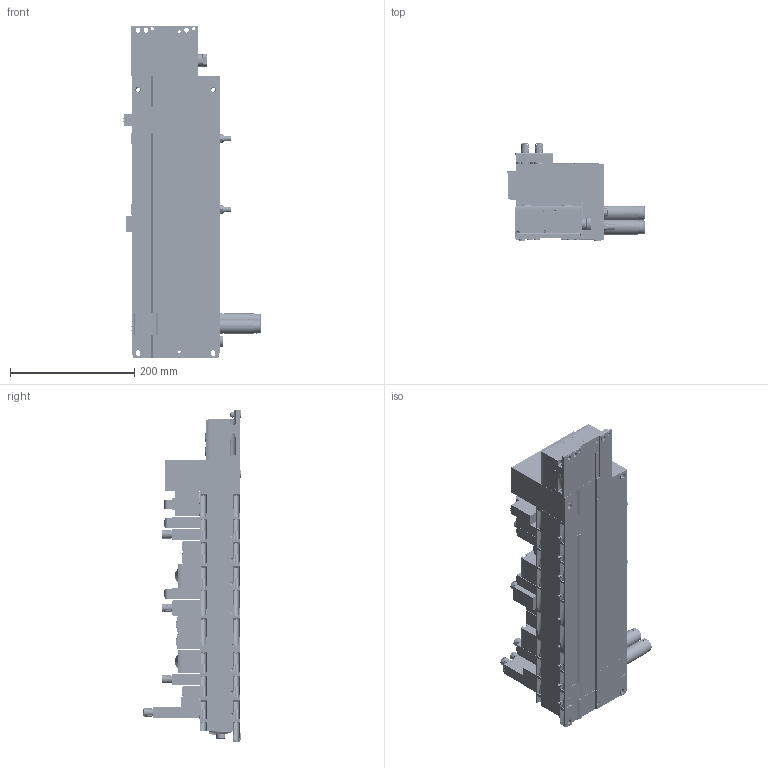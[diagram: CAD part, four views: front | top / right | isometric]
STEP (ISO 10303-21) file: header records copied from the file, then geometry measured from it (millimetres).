
FILE_DESCRIPTION( ( 'STEP AP214' ), '1' );
FILE_NAME( 'p:/temp/worker_1067/temp/exporttempdir_4164_440_VTNWP/format_0/8073100_51E-F33GCQP-RC.stp', '2020-07-23T14:33:25', ( 'License CC BY-ND 4.0' ), ( 'CADENAS' ), ' ', 'PARTsolutions', ' ' );
FILE_SCHEMA( ( 'AUTOMOTIVE_DESIGN { 1 0 10303 214 1 1 1 1 }' ) );
Length unit declared in the file: millimetre
Products named in the file (30): 8073100 51E-F33GCQP-RC 46P-B-YS-PVPNNGWOGWZQZYBAYQLUSWYLNBSOGWYCBYQTLUWYLNGWOGWAQIIIZQA-CSJLLCSJLLJL; HI_8068240 VABA-S6-1-X2-F1-CB---(EPL); HI_8068609 VABV-S6-1Q-G38-CB1-T5---(VKPL_0); _8067405 VABF-S6-1-P5A4S2YE-G12-1T5-PA---(high); _174308 B-M5-B---(VCB); _8068913 VABV-S4-2HS-G18-CB-2T5---(VKPL_0); _3568 B-1/8---(VCB); HI_8066569 VSVA-BT-M32CS1-MYE-A2-1T5L-PA---(VT4617); _1205860 AMTE-M-LH-G18---(VCB); HI_8033450 VSVA-B-B52-ZTR-A2-1T1L---(VT462); _4105147 VAMC-B-S6-CTR---(vtsa_kappe); _8067932 VABV-S4-2HS-G18-CB-2T2---(VKPL_0); HI_539213 VABB-S4-2-WT---(VT465); HI_8104044 VABF-S6-1-P8A7-G12-CB1---(VT46); HI_8090343 VABF-S6-1-P8A7-G12-CB-DECKEL---(VT46); HI_8068912 VABV-S4-12HS-G-CB-2T5---(VKPL_0); HI_539156 VSVA-B-B52-ZD-A1-1T1L---(VT461); HI_8067940 VABV-S4-1HS-G14-CB-2T2---(VKPL_0); HI_539212 VABB-S4-1-WT---(VT464); HI_8104042 VABF-S6-1-P8A7-G12-CB---(VT46); _8067140 VABF-S4-2-V2B1-G38-CB-VH-20-A---(mechanical highp); HI_8033250 VSVA-B-P53UD-ZD-A2-1T1L---(p); _678626 M3x30; _538433 UOM-3/8; _539238 VABE-S6-1RZ-G-B1---(PL); _3569 B-1/4---(VCBE); HI_550212 CPX-M-EPL-EV---(EPL_51E); HI_550208 CPX-M-GE-EV-S-7/8-5POL---(EV); HI_548755 CPX-FB33---(EA); HI_548757 CPX-AK-P---(g_2_1)
Assembly tree (47 placements, depth 2):
  8073100 51E-F33GCQP-RC 46P-B-YS-PVPNNGWOGWZQZYBAYQLUSWYLNBSOGWYCBYQTLUWYLNGWOGWAQIIIZQA-CSJLLCSJLLJL
    HI_8068240 VABA-S6-1-X2-F1-CB---(EPL)
    HI_8068609 VABV-S6-1Q-G38-CB1-T5---(VKPL_0)
    _8067405 VABF-S6-1-P5A4S2YE-G12-1T5-PA---(high)
    _174308 B-M5-B---(VCB)
    _8068913 VABV-S4-2HS-G18-CB-2T5---(VKPL_0)
    _3568 B-1/8---(VCB)  x2
    HI_8066569 VSVA-BT-M32CS1-MYE-A2-1T5L-PA---(VT4617)  x2
    _1205860 AMTE-M-LH-G18---(VCB)  x2
    HI_8033450 VSVA-B-B52-ZTR-A2-1T1L---(VT462)  x2
    _4105147 VAMC-B-S6-CTR---(vtsa_kappe)  x8
    _8067932 VABV-S4-2HS-G18-CB-2T2---(VKPL_0)  x2
    HI_539213 VABB-S4-2-WT---(VT465)  x3
    HI_8104044 VABF-S6-1-P8A7-G12-CB1---(VT46)
    HI_8090343 VABF-S6-1-P8A7-G12-CB-DECKEL---(VT46)  x2
    HI_8068912 VABV-S4-12HS-G-CB-2T5---(VKPL_0)
    HI_539156 VSVA-B-B52-ZD-A1-1T1L---(VT461)
    HI_8067940 VABV-S4-1HS-G14-CB-2T2---(VKPL_0)
    HI_539212 VABB-S4-1-WT---(VT464)  x2
    HI_8104042 VABF-S6-1-P8A7-G12-CB---(VT46)
    _8067140 VABF-S4-2-V2B1-G38-CB-VH-20-A---(mechanical highp)
    HI_8033250 VSVA-B-P53UD-ZD-A2-1T1L---(p)
    _678626 M3x30  x2
    _538433 UOM-3/8  x2
    _539238 VABE-S6-1RZ-G-B1---(PL)
    _3569 B-1/4---(VCBE)
    HI_550212 CPX-M-EPL-EV---(EPL_51E)
    HI_550208 CPX-M-GE-EV-S-7/8-5POL---(EV)
    HI_548755 CPX-FB33---(EA)
    HI_548757 CPX-AK-P---(g_2_1)
Bounding box: 220.3 x 156.24 x 533.8 mm (x, y, z)
Volume: 6089587.3 mm3; surface area: 895902.1 mm2
Topology: 47 solids, 47 shells, 5315 faces, 13720 edges, 8963 vertices
Faces by surface type: plane 3012, cylinder 1701, cone 500, torus 84, bspline 15, sphere 3
Full cylindrical faces by diameter (mm): 1.1 x12, 2 x5, 2.3 x2, 2.459 x8, 2.5 x2, 2.8 x2, 3 x4, 3.2 x10, 3.242 x32, 3.3 x23, 4 x19, 4.134 x60, 4.3 x11, 4.5 x1, 5 x47, 5.2 x36, 5.5 x10, 5.6 x2, 5.8 x8, 6 x14, 6.4 x3, 6.5 x10, 6.6 x7, 7 x4, 7.2 x2, 7.5 x4, 7.6 x10, 8 x18, 8.2 x5, 8.3 x2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
Entity records: 141849 total; most frequent: CARTESIAN_POINT 21374, DIRECTION 19187, ORIENTED_EDGE 17112, EDGE_CURVE 8556, AXIS2_PLACEMENT_3D 7038, VERTEX_POINT 6098, EDGE_LOOP 5153, LINE 5111
